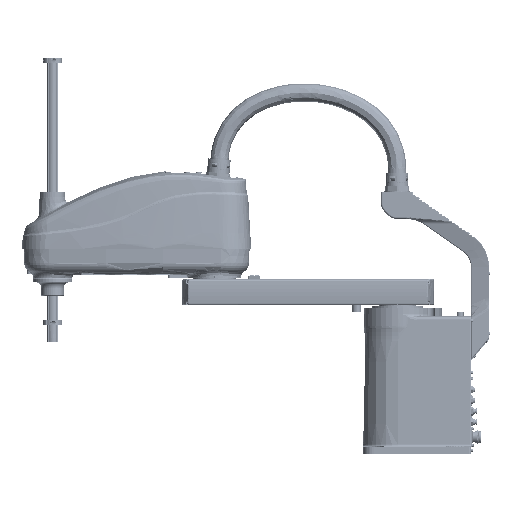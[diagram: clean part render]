
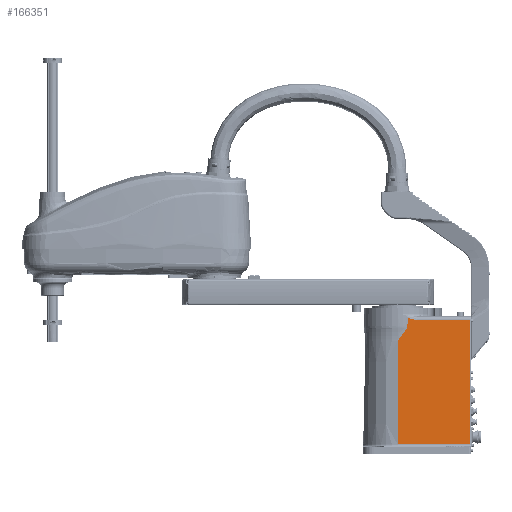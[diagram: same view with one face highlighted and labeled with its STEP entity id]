
A CAD part, left-side view. The second image highlights one B-rep face of the part: STEP entity #166351.
In plain terms, the highlighted planar face has unit normal (-1, 0, 0.018).
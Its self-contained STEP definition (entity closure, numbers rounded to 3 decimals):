
#6042 = CARTESIAN_POINT ( 'NONE',  ( -75.994, 0., 263.043 ) ) ;
#6419 = EDGE_CURVE ( 'NONE', #231645, #162916, #239727, .T. ) ;
#6493 = LINE ( 'NONE', #162537, #79375 ) ;
#17491 = EDGE_CURVE ( 'NONE', #162916, #62184, #98353, .T. ) ;
#17668 = DIRECTION ( 'NONE',  ( 0.017, 0., 1. ) ) ;
#21587 = CARTESIAN_POINT ( 'NONE',  ( -75.094, -31.219, 314.643 ) ) ;
#23251 = ORIENTED_EDGE ( 'NONE', *, *, #6419, .T. ) ;
#34886 = CARTESIAN_POINT ( 'NONE',  ( -75.539, -19.116, 289.111 ) ) ;
#35320 = CARTESIAN_POINT ( 'NONE',  ( -75.45, -21.797, 294.221 ) ) ;
#35893 = CARTESIAN_POINT ( 'NONE',  ( -80.168, 0., 23.913 ) ) ;
#38061 = CARTESIAN_POINT ( 'NONE',  ( -75., 0., 320. ) ) ;
#40252 = CARTESIAN_POINT ( 'NONE',  ( -75.056, -26.248, 316.795 ) ) ;
#41999 = CARTESIAN_POINT ( 'NONE',  ( -75.048, -25.455, 317.231 ) ) ;
#43257 = CARTESIAN_POINT ( 'NONE',  ( -75.539, -19.116, 289.111 ) ) ;
#43775 = VERTEX_POINT ( 'NONE', #34886 ) ;
#45911 = CARTESIAN_POINT ( 'NONE',  ( -75.842, -6.356, 271.744 ) ) ;
#52490 = ORIENTED_EDGE ( 'NONE', *, *, #180986, .T. ) ;
#53115 = CARTESIAN_POINT ( 'NONE',  ( -75.326, -23.023, 301.32 ) ) ;
#57578 = PLANE ( 'NONE',  #114704 ) ;
#60047 = VERTEX_POINT ( 'NONE', #200916 ) ;
#60215 = ORIENTED_EDGE ( 'NONE', *, *, #167589, .T. ) ;
#60425 = VERTEX_POINT ( 'NONE', #209670 ) ;
#62184 = VERTEX_POINT ( 'NONE', #82903 ) ;
#63260 = CARTESIAN_POINT ( 'NONE',  ( -75.103, -32.937, 314.077 ) ) ;
#66330 = VERTEX_POINT ( 'NONE', #101836 ) ;
#67507 = DIRECTION ( 'NONE',  ( 0., 1., 0. ) ) ;
#70310 = VECTOR ( 'NONE', #67507, 1000. ) ;
#72578 = CARTESIAN_POINT ( 'NONE',  ( -75.273, -23.359, 304.388 ) ) ;
#78705 = CARTESIAN_POINT ( 'NONE',  ( -75.137, -169., 312.14 ) ) ;
#79375 = VECTOR ( 'NONE', #122737, 1000. ) ;
#82903 = CARTESIAN_POINT ( 'NONE',  ( -80.168, -169., 23.913 ) ) ;
#83590 = CARTESIAN_POINT ( 'NONE',  ( -75.06, -26.649, 316.587 ) ) ;
#86255 = ORIENTED_EDGE ( 'NONE', *, *, #106901, .T. ) ;
#92929 = CARTESIAN_POINT ( 'NONE',  ( -75.344, -22.906, 300.298 ) ) ;
#95550 = CARTESIAN_POINT ( 'NONE',  ( -75.467, -21.411, 293.235 ) ) ;
#97379 = DIRECTION ( 'NONE',  ( -1., 0., 0.017 ) ) ;
#98353 = LINE ( 'NONE', #116286, #145851 ) ;
#99017 = CARTESIAN_POINT ( 'NONE',  ( -75.467, -21.411, 293.235 ) ) ;
#101836 = CARTESIAN_POINT ( 'NONE',  ( -75.04, -24.678, 317.7 ) ) ;
#102091 = DIRECTION ( 'NONE',  ( -0.017, 0., -1. ) ) ;
#103073 = CARTESIAN_POINT ( 'NONE',  ( -75.137, -43.498, 312.14 ) ) ;
#104224 = ORIENTED_EDGE ( 'NONE', *, *, #251342, .T. ) ;
#106901 = EDGE_CURVE ( 'NONE', #66330, #60047, #113257, .T. ) ;
#111408 = CARTESIAN_POINT ( 'NONE',  ( -75.994, 0., 263.043 ) ) ;
#113257 = B_SPLINE_CURVE_WITH_KNOTS ( 'NONE', 3,
 ( #174335, #197237, #256637, #72578, #176920, #53115, #92929, #176068, #214181, #193761, #35320, #95550 ),
 .UNSPECIFIED., .F., .F.,
 ( 4, 2, 2, 2, 2, 4 ),
 ( 0., 0.012, 0.015, 0.019, 0.022, 0.025 ),
 .UNSPECIFIED. ) ;
#114704 = AXIS2_PLACEMENT_3D ( 'NONE', #38061, #97379, #17668 ) ;
#114799 = LINE ( 'NONE', #253329, #70310 ) ;
#116286 = CARTESIAN_POINT ( 'NONE',  ( -80.168, -170., 23.913 ) ) ;
#122611 = CARTESIAN_POINT ( 'NONE',  ( -75.07, -27.865, 315.99 ) ) ;
#122737 = DIRECTION ( 'NONE',  ( 0.017, 0., 1. ) ) ;
#122919 = CARTESIAN_POINT ( 'NONE',  ( -75.539, -19.116, 289.111 ) ) ;
#123488 = CARTESIAN_POINT ( 'NONE',  ( -75.126, -38.159, 312.774 ) ) ;
#124342 = CARTESIAN_POINT ( 'NONE',  ( -75.044, -25.062, 317.46 ) ) ;
#129559 = EDGE_CURVE ( 'NONE', #60047, #43775, #150998, .T. ) ;
#142024 = CARTESIAN_POINT ( 'NONE',  ( -75.088, -30.367, 314.953 ) ) ;
#145851 = VECTOR ( 'NONE', #219731, 1000. ) ;
#146475 = EDGE_CURVE ( 'NONE', #60425, #66330, #242813, .T. ) ;
#150998 = B_SPLINE_CURVE_WITH_KNOTS ( 'NONE', 3,
 ( #99017, #258332, #181208, #122919 ),
 .UNSPECIFIED., .F., .F.,
 ( 4, 4 ),
 ( 0., 0.005 ),
 .UNSPECIFIED. ) ;
#162465 = ORIENTED_EDGE ( 'NONE', *, *, #17491, .T. ) ;
#162537 = CARTESIAN_POINT ( 'NONE',  ( -75., -169., 320. ) ) ;
#162916 = VERTEX_POINT ( 'NONE', #35893 ) ;
#164151 = CARTESIAN_POINT ( 'NONE',  ( -75.137, -45.315, 312.14 ) ) ;
#165422 = CARTESIAN_POINT ( 'NONE',  ( -75.69, -12.697, 280.457 ) ) ;
#166351 = ADVANCED_FACE ( 'NONE', ( #258256 ), #57578, .T. ) ;
#167589 = EDGE_CURVE ( 'NONE', #186645, #60425, #114799, .T. ) ;
#174335 = CARTESIAN_POINT ( 'NONE',  ( -75.04, -24.678, 317.7 ) ) ;
#176068 = CARTESIAN_POINT ( 'NONE',  ( -75.38, -22.644, 298.258 ) ) ;
#176920 = CARTESIAN_POINT ( 'NONE',  ( -75.29, -23.25, 303.365 ) ) ;
#180986 = EDGE_CURVE ( 'NONE', #43775, #231645, #199779, .T. ) ;
#181208 = CARTESIAN_POINT ( 'NONE',  ( -75.517, -20.061, 290.385 ) ) ;
#183543 = CARTESIAN_POINT ( 'NONE',  ( -75.12, -36.405, 313.131 ) ) ;
#184415 = CARTESIAN_POINT ( 'NONE',  ( -75.108, -33.8, 313.821 ) ) ;
#186645 = VERTEX_POINT ( 'NONE', #78705 ) ;
#193761 = CARTESIAN_POINT ( 'NONE',  ( -75.433, -22.083, 295.22 ) ) ;
#197237 = CARTESIAN_POINT ( 'NONE',  ( -75.112, -24.288, 313.602 ) ) ;
#199779 = B_SPLINE_CURVE_WITH_KNOTS ( 'NONE', 3,
 ( #43257, #165422, #45911, #6042 ),
 .UNSPECIFIED., .F., .F.,
 ( 4, 4 ),
 ( 0., 0.032 ),
 .UNSPECIFIED. ) ;
#200916 = CARTESIAN_POINT ( 'NONE',  ( -75.467, -21.411, 293.235 ) ) ;
#205022 = VECTOR ( 'NONE', #102091, 1000. ) ;
#209670 = CARTESIAN_POINT ( 'NONE',  ( -75.137, -45.315, 312.14 ) ) ;
#209794 = EDGE_LOOP ( 'NONE', ( #162465, #104224, #60215, #257843, #86255, #210193, #52490, #23251 ) ) ;
#210193 = ORIENTED_EDGE ( 'NONE', *, *, #129559, .T. ) ;
#214181 = CARTESIAN_POINT ( 'NONE',  ( -75.397, -22.503, 297.239 ) ) ;
#219731 = DIRECTION ( 'NONE',  ( 0., -1., 0. ) ) ;
#223296 = CARTESIAN_POINT ( 'NONE',  ( -75., 0., 320. ) ) ;
#231645 = VERTEX_POINT ( 'NONE', #111408 ) ;
#239727 = LINE ( 'NONE', #223296, #205022 ) ;
#241958 = CARTESIAN_POINT ( 'NONE',  ( -75.076, -28.69, 315.626 ) ) ;
#242813 = B_SPLINE_CURVE_WITH_KNOTS ( 'NONE', 3,
 ( #164151, #103073, #242840, #123488, #183543, #184415, #63260, #21587, #142024, #241958, #122611, #83590, #40252, #41999, #124342, #245498 ),
 .UNSPECIFIED., .F., .F.,
 ( 4, 2, 2, 2, 2, 2, 2, 4 ),
 ( 0., 0.005, 0.011, 0.013, 0.016, 0.019, 0.02, 0.021 ),
 .UNSPECIFIED. ) ;
#242840 = CARTESIAN_POINT ( 'NONE',  ( -75.135, -41.706, 312.278 ) ) ;
#245498 = CARTESIAN_POINT ( 'NONE',  ( -75.04, -24.678, 317.7 ) ) ;
#251342 = EDGE_CURVE ( 'NONE', #62184, #186645, #6493, .T. ) ;
#253329 = CARTESIAN_POINT ( 'NONE',  ( -75.137, -30.594, 312.14 ) ) ;
#256637 = CARTESIAN_POINT ( 'NONE',  ( -75.183, -23.893, 309.504 ) ) ;
#257843 = ORIENTED_EDGE ( 'NONE', *, *, #146475, .T. ) ;
#258256 = FACE_OUTER_BOUND ( 'NONE', #209794, .T. ) ;
#258332 = CARTESIAN_POINT ( 'NONE',  ( -75.493, -20.832, 291.756 ) ) ;
